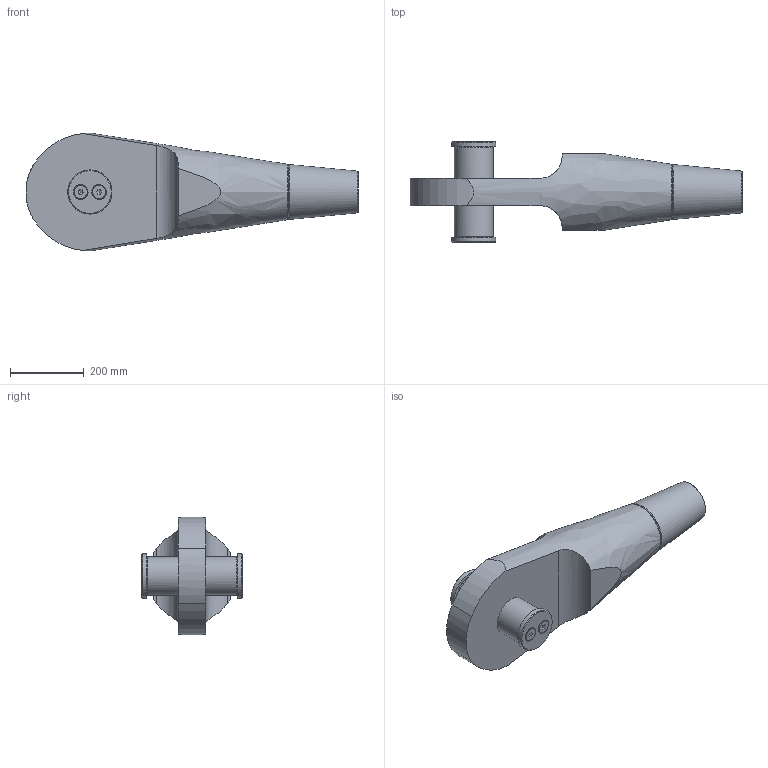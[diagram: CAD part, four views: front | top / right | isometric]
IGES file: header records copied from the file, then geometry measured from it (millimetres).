
Global section: file name: 520-100-OES; native system: Autodesk Inventor 2016; preprocessor: unknown; author: Administrator; date: 20200626.104117; units: centimetre
Bounding box: 902.69 x 275 x 320.74 mm (x, y, z)
Volume: 21014547.7 mm3; surface area: 771917.8 mm2
Topology: 2 solids, 10 shells, 104 faces, 266 edges, 182 vertices
Faces by surface type: bspline 104
